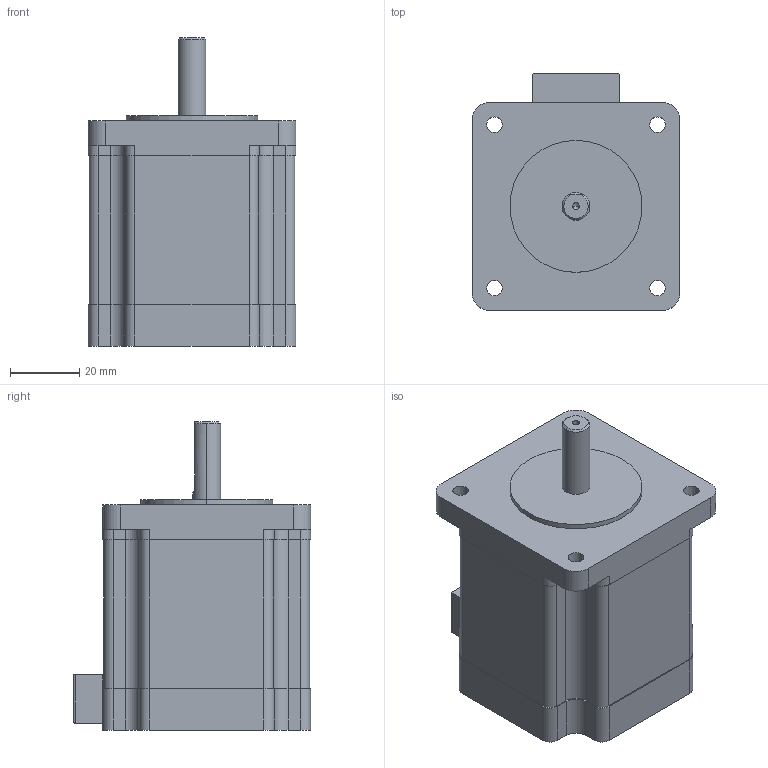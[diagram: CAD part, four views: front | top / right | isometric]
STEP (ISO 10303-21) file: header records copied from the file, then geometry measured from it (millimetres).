
FILE_DESCRIPTION (( 'STEP AP214' ), '1' );
FILE_NAME ('TS3606N3E8.STEP', '2016-09-09T03:38:31', ( 'hoho' ), ( '' ), 'SwSTEP 2.0', 'SolidWorks 2013', '' );
FILE_SCHEMA (( 'AUTOMOTIVE_DESIGN' ));
Length unit declared in the file: millimetre
Products named in the file (1): TS3606N3E8
Bounding box: 60 x 68.5 x 89 mm (x, y, z)
Volume: 210623 mm3; surface area: 23658.1 mm2
Topology: 1 solids, 1 shells, 116 faces, 321 edges, 210 vertices
Faces by surface type: cylinder 57, plane 54, cone 5
Entity records: 4035 total; most frequent: CARTESIAN_POINT 667, DIRECTION 662, ORIENTED_EDGE 638, EDGE_CURVE 319, AXIS2_PLACEMENT_3D 231, VERTEX_POINT 210, LINE 200, VECTOR 200
